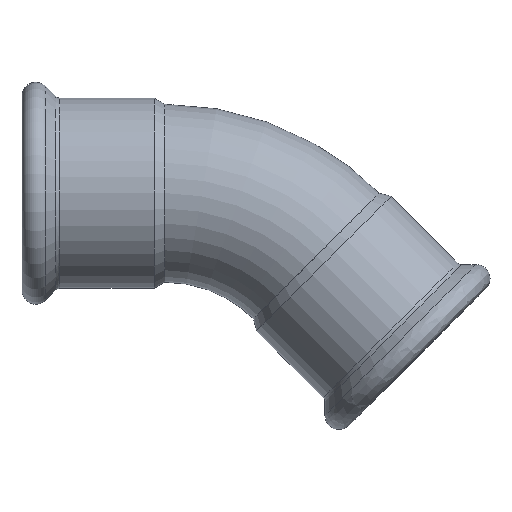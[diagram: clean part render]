
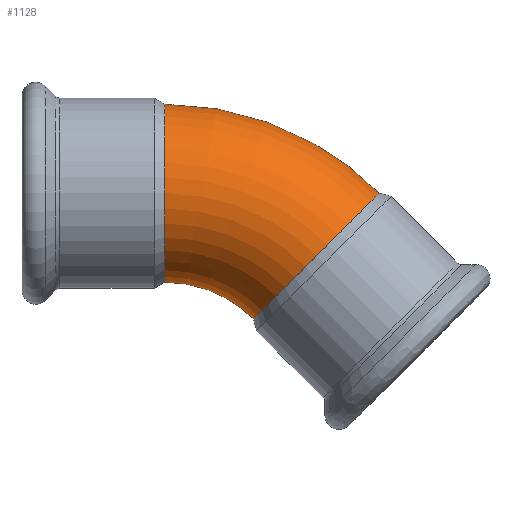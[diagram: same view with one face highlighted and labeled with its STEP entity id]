
A CAD part, top view. The second image highlights one B-rep face of the part: STEP entity #1128.
In plain terms, the highlighted toroidal (fillet/blend) face has major radius 77 mm and minor radius 32 mm.
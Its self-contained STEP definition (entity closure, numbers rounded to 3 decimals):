
#1094=CARTESIAN_POINT('',(54.447,-22.553,32.));
#1095=VERTEX_POINT('',#1094);
#1096=CARTESIAN_POINT('',(54.447,-22.553,0.));
#1097=DIRECTION('',(-0.707,0.707,0.0));
#1098=DIRECTION('',(0.0,0.0,1.0));
#1099=AXIS2_PLACEMENT_3D('',#1096,#1097,#1098);
#1100=CIRCLE('',#1099,32.);
#1101=EDGE_CURVE('',#1095,#1095,#1100,.T.);
#1109=CARTESIAN_POINT('',(0.,-77.0,0.0));
#1110=DIRECTION('',(0.0,0.0,-1.0));
#1111=DIRECTION('',(-1.0,0.0,0.0));
#1112=AXIS2_PLACEMENT_3D('',#1109,#1110,#1111);
#1113=TOROIDAL_SURFACE('',#1112,77.0,32.);
#1114=ORIENTED_EDGE('',*,*,#1101,.T.);
#1115=EDGE_LOOP('',(#1114));
#1116=FACE_OUTER_BOUND('',#1115,.T.);
#1117=CARTESIAN_POINT('',(0.,32.,0.0));
#1118=VERTEX_POINT('',#1117);
#1119=CARTESIAN_POINT('',(0.,0.,0.0));
#1120=DIRECTION('',(1.0,0.0,0.0));
#1121=DIRECTION('',(0.0,1.0,0.0));
#1122=AXIS2_PLACEMENT_3D('',#1119,#1120,#1121);
#1123=CIRCLE('',#1122,32.);
#1124=EDGE_CURVE('',#1118,#1118,#1123,.T.);
#1125=ORIENTED_EDGE('',*,*,#1124,.T.);
#1126=EDGE_LOOP('',(#1125));
#1127=FACE_BOUND('',#1126,.T.);
#1128=ADVANCED_FACE('',(#1116,#1127),#1113,.T.);
